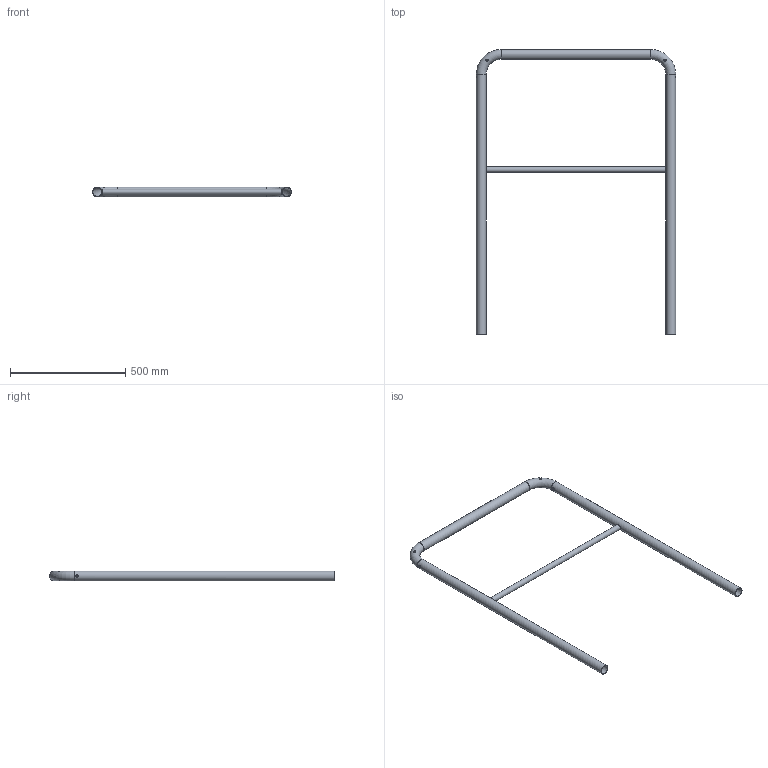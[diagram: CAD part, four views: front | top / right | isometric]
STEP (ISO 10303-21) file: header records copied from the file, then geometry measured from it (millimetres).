
FILE_DESCRIPTION((''),'2;1');
FILE_NAME('S:\Användarkataloger\AndreasA\Mina Inventor filer\Räcken\STEP\modul_ind_900-1216.stp','2010-09-07T13:13:19',('AndreasA'),(''),'Autodesk Inventor 2011','Autodesk Inventor 2011','');
FILE_SCHEMA(('AUTOMOTIVE_DESIGN { 1 0 10303 214 1 1 1 1 }'));
Length unit declared in the file: millimetre
Products named in the file (3): modul_ind_900-1216; handledare_modul_900-1216; mellanliggare_modul_900
Assembly tree (2 placements, depth 2):
  modul_ind_900-1216
    handledare_modul_900-1216
    mellanliggare_modul_900
Bounding box: 865.4 x 1237.2 x 42.4 mm (x, y, z)
Volume: 918809.5 mm3; surface area: 920143.4 mm2
Topology: 2 solids, 2 shells, 24 faces, 64 edges, 40 vertices
Faces by surface type: cylinder 16, torus 4, plane 4
Full cylindrical faces by diameter (mm): 10 x4, 11 x4, 21 x1, 25 x1, 38.4 x3, 42.4 x3
Entity records: 1354 total; most frequent: CARTESIAN_POINT 809, DIRECTION 90, ORIENTED_EDGE 64, EDGE_LOOP 64, AXIS2_PLACEMENT_3D 45, FACE_BOUND 40, VERTEX_POINT 32, EDGE_CURVE 32
